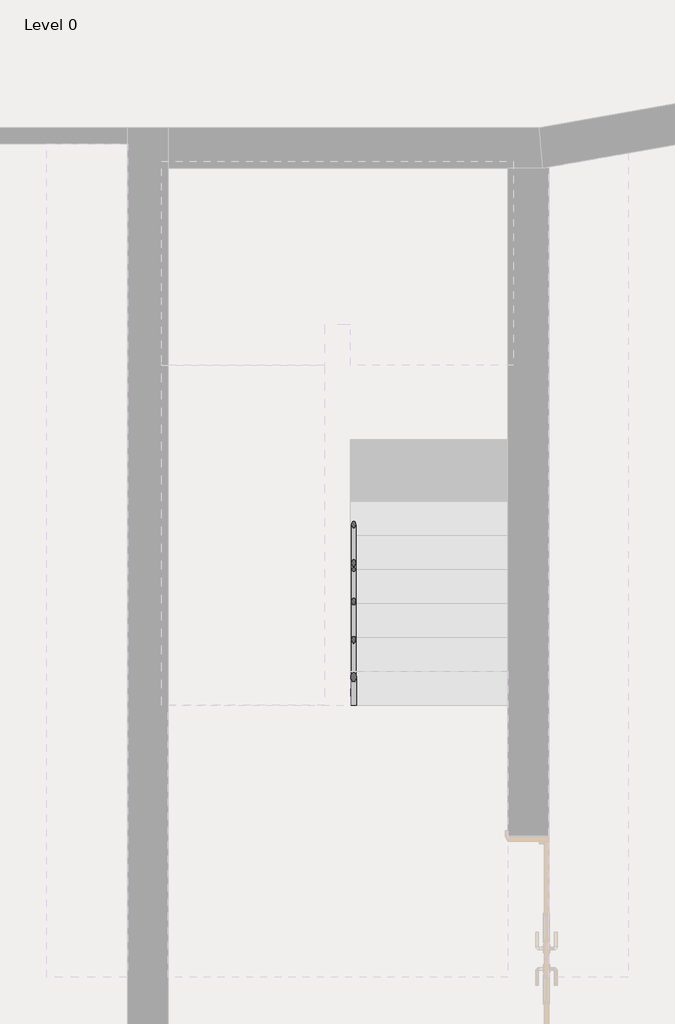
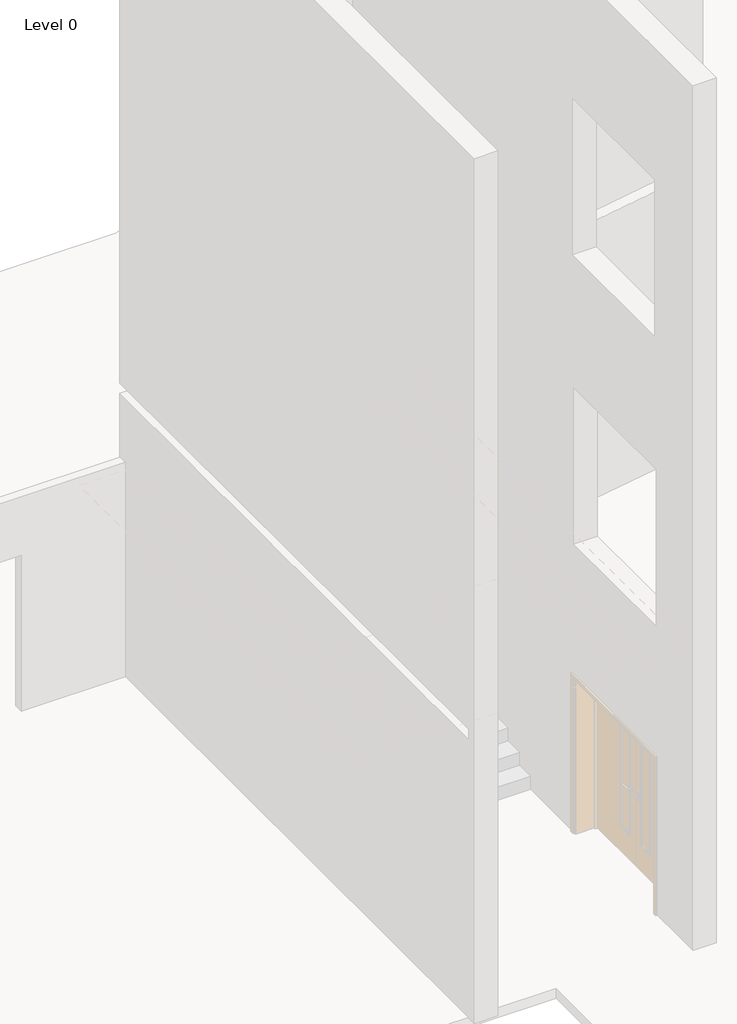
# One storey, part 13 of 14: 1 railing.
"""IFC4 building model written with IfcOpenShell, lengths in millimetres."""

from ifc_helpers import new_model, si_unit, point, frame, frame_2d, origin, place, context, project, spatial, circle_curve, ellipse_curve, trimmed, segment, composite_curve, outline, extrude, element, save
from ifc_brep_helpers import plane_surface, cylinder_surface, advanced_brep

model = new_model("IFC4")

# Units and contexts
model_context = context("Model", 3, world=origin())
ifc_project = project(units=[si_unit("LENGTHUNIT", "METRE", prefix="MILLI")], contexts=[model_context])

# Site, building, storey
site = spatial("IfcSite", under=ifc_project)
building = spatial("IfcBuilding", under=site)
storey = spatial("IfcBuildingStorey", under=building, Name="Level 0", Elevation=0.0)

# Railing
placement = place(None, origin())
element("IfcRailing", 1, ObjectType="900mm_Pipe", at=placement, inside=storey, context=model_context, shape_type="SolidModel", body=[
    advanced_brep(
    [(29097.6000029, 3763.2000006, 1052.7548977), (29057.6000029, 3763.2000006, 1052.7548977), (29097.6000029, 6269.5712987, 2830.0), (29057.6000029, 6269.5712987, 2830.0), (29097.6000029, 6608.6000006, 2830.0), (29057.6000029, 6568.6000006, 2830.0), (28816.8000029, 6608.6000006, 2830.0), (28856.8000029, 6568.6000006, 2830.0), (28816.8000029, 6506.8287024, 2830.0), (28856.8000029, 6506.8287024, 2830.0), (28816.8000029, 6251.631425, 3010.9580695), (28856.8000029, 6251.631425, 3010.9580695), (28816.8000029, 3763.2000006, 4775.4821704), (28856.8000029, 3763.2000006, 4775.4821704)],
    [
        (0, 1, ellipse_curve(frame((29077.6000029, 3763.2000006, 1052.7548977), z_axis=(0.0, -1.0, 0.0), x_axis=(0.0, 0.0, -1.0)), 24.5178296, 20.0)),
        (1, 0, ellipse_curve(frame((29077.6000029, 3763.2000006, 1052.7548977), z_axis=(0.0, -1.0, 0.0), x_axis=(0.0, 0.0, -1.0)), 24.5178296, 20.0)),
        (0, 2),
        (2, 3, ellipse_curve(frame((29077.6000029, 6269.5712987, 2830.0), z_axis=(0.0, -0.9528202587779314, -0.3035350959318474), x_axis=(0.0, 0.30353509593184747, -0.9528202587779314)), 20.9903178, 20.0)),
        (3, 1),
        (3, 2, ellipse_curve(frame((29077.6000029, 6269.5712987, 2830.0), z_axis=(0.0, -0.9528202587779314, -0.3035350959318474), x_axis=(0.0, 0.30353509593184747, -0.9528202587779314)), 20.9903178, 20.0)),
        (2, 4),
        (4, 5, ellipse_curve(frame((29077.6000029, 6588.6000006, 2830.0), z_axis=(0.7071067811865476, -0.7071067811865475, 0.0), x_axis=(-0.7071067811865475, -0.7071067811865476, 0.0)), 28.2842712, 20.0)),
        (5, 3),
        (5, 4, ellipse_curve(frame((29077.6000029, 6588.6000006, 2830.0), z_axis=(0.7071067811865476, -0.7071067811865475, 0.0), x_axis=(-0.7071067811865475, -0.7071067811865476, 0.0)), 28.2842712, 20.0)),
        (4, 6),
        (6, 7, ellipse_curve(frame((28836.8000029, 6588.6000006, 2830.0), z_axis=(0.7071067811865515, 0.7071067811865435, 0.0), x_axis=(0.7071067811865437, -0.7071067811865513, 0.0)), 28.2842712, 20.0)),
        (7, 5),
        (7, 6, ellipse_curve(frame((28836.8000029, 6588.6000006, 2830.0), z_axis=(0.7071067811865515, 0.7071067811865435, 0.0), x_axis=(0.7071067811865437, -0.7071067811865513, 0.0)), 28.2842712, 20.0)),
        (6, 8),
        (8, 9, ellipse_curve(frame((28836.8000029, 6506.8287024, 2830.0), z_axis=(0.0, 0.9528202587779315, -0.3035350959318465), x_axis=(0.0, 0.3035350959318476, 0.9528202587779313)), 20.9903178, 20.0)),
        (9, 7),
        (9, 8, ellipse_curve(frame((28836.8000029, 6506.8287024, 2830.0), z_axis=(0.0, 0.9528202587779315, -0.3035350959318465), x_axis=(0.0, 0.3035350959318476, 0.9528202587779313)), 20.9903178, 20.0)),
        (8, 10),
        (10, 11, circle_curve(frame((28836.8000029, 6251.631425, 3010.9580695), z_axis=(0.0, 0.8157328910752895, -0.5784287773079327), x_axis=(1.0, 0.0, 0.0)), 20.0)),
        (11, 9),
        (11, 10, circle_curve(frame((28836.8000029, 6251.631425, 3010.9580695), z_axis=(0.0, 0.8157328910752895, -0.5784287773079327), x_axis=(1.0, 0.0, 0.0)), 20.0)),
        (12, 13, ellipse_curve(frame((28836.8000029, 3763.2000006, 4775.4821704), z_axis=(0.0, -1.0, 0.0), x_axis=(0.0, 0.0, -1.0)), 24.5178296, 20.0)),
        (13, 12, ellipse_curve(frame((28836.8000029, 3763.2000006, 4775.4821704), z_axis=(0.0, -1.0, 0.0), x_axis=(0.0, 0.0, -1.0)), 24.5178296, 20.0)),
        (10, 12),
        (13, 11),
    ],
    [
        plane_surface(frame((29077.6000029, 3763.2000006, 1077.2727273), z_axis=(0.0, -1.0, 0.0), x_axis=(0.0, 0.0, 1.0))),
        cylinder_surface(frame((29077.6000029, 3774.7685761, 1060.9580695), z_axis=(0.0, -0.8157328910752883, -0.5784287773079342), x_axis=(-1.0, 0.0, 0.0)), 20.0),
        cylinder_surface(frame((29077.6000029, 6263.2000006, 2830.0), z_axis=(0.0, -1.0, 0.0), x_axis=(-1.0, 0.0, 0.0)), 20.0),
        cylinder_surface(frame((29077.6000029, 6588.6000006, 2830.0), z_axis=(1.0, 0.0, 0.0), x_axis=(0.0, -1.0, 0.0)), 20.0),
        cylinder_surface(frame((28836.8000029, 6588.6000006, 2830.0), z_axis=(0.0, 1.0, 0.0), x_axis=(1.0, 0.0, 0.0)), 20.0),
        cylinder_surface(frame((28836.8000029, 6501.631425, 2833.6853422), z_axis=(0.0, 0.8157328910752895, -0.5784287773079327), x_axis=(1.0, 0.0, 0.0)), 20.0),
        plane_surface(frame((28836.8000029, 3763.2000006, 4800.0), z_axis=(0.0, -1.0, 0.0), x_axis=(0.0, 0.0, -1.0))),
        cylinder_surface(frame((28836.8000029, 6251.631425, 3010.9580695), z_axis=(0.0, 0.8157328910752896, -0.5784287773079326), x_axis=(1.0, 0.0, 0.0)), 20.0),
    ],
    [
        (0, [[1, 2]]),
        (1, [[-1, 3, 4, 5]]),
        (1, [[-2, -5, 6, -3]]),
        (2, [[-4, 7, 8, 9]]),
        (2, [[-6, -9, 10, -7]]),
        (3, [[-8, 11, 12, 13]]),
        (3, [[-10, -13, 14, -11]]),
        (4, [[-12, 15, 16, 17]]),
        (4, [[-14, -17, 18, -15]]),
        (5, [[-16, 19, 20, 21]]),
        (5, [[-18, -21, 22, -19]]),
        (6, [[23, 24]]),
        (7, [[-20, 25, -24, 26]]),
        (7, [[-22, -26, -23, -25]]),
    ],
),
    advanced_brep(
    [(29092.6000029, 3763.2000006, 858.8843551), (29062.6000029, 3763.2000006, 858.8843551), (29092.6000029, 6263.2000006, 2631.6116278), (29062.6000029, 6263.2000006, 2631.6116278)],
    [
        (0, 1, ellipse_curve(frame((29077.6000029, 3763.2000006, 858.8843551), z_axis=(0.0, -1.0, 0.0), x_axis=(0.0, 0.0, -1.0)), 18.3883722, 15.0)),
        (1, 0, ellipse_curve(frame((29077.6000029, 3763.2000006, 858.8843551), z_axis=(0.0, -1.0, 0.0), x_axis=(0.0, 0.0, -1.0)), 18.3883722, 15.0)),
        (2, 3, ellipse_curve(frame((29077.6000029, 6263.2000006, 2631.6116278), z_axis=(0.0, 1.0, 0.0), x_axis=(0.0, 0.0, -1.0)), 18.3883722, 15.0)),
        (3, 2, ellipse_curve(frame((29077.6000029, 6263.2000006, 2631.6116278), z_axis=(0.0, 1.0, 0.0), x_axis=(0.0, 0.0, -1.0)), 18.3883722, 15.0)),
        (0, 2),
        (3, 1),
    ],
    [
        plane_surface(frame((29077.6000029, 3763.2000006, 877.2727273), z_axis=(0.0, -1.0, 0.0), x_axis=(0.0, 0.0, 1.0))),
        plane_surface(frame((29077.6000029, 6263.2000006, 2650.0), z_axis=(0.0, 1.0, 0.0), x_axis=(0.0, 0.0, 1.0))),
        cylinder_surface(frame((29077.6000029, 3771.8764322, 865.0367339), z_axis=(0.0, -0.8157328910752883, -0.5784287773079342), x_axis=(-1.0, 0.0, 0.0)), 15.0),
    ],
    [
        (0, [[1, 2]]),
        (1, [[3, 4]]),
        (2, [[-1, 5, -4, 6]]),
        (2, [[-2, -6, -3, -5]]),
    ],
),
    advanced_brep(
    [(29092.6000029, 6263.2000006, 2635.0), (29062.6000029, 6263.2000006, 2635.0), (29092.6000029, 6573.6000006, 2635.0), (29062.6000029, 6573.6000006, 2635.0)],
    [
        (0, 1, circle_curve(frame((29077.6000029, 6263.2000006, 2635.0), z_axis=(0.0, -1.0, 0.0), x_axis=(-1.0, 0.0, 0.0)), 15.0)),
        (1, 0, circle_curve(frame((29077.6000029, 6263.2000006, 2635.0), z_axis=(0.0, -1.0, 0.0), x_axis=(-1.0, 0.0, 0.0)), 15.0)),
        (2, 3, circle_curve(frame((29077.6000029, 6573.6000006, 2635.0), z_axis=(0.0, 1.0, 0.0), x_axis=(-1.0, 0.0, 0.0)), 15.0)),
        (3, 2, circle_curve(frame((29077.6000029, 6573.6000006, 2635.0), z_axis=(0.0, 1.0, 0.0), x_axis=(-1.0, 0.0, 0.0)), 15.0)),
        (0, 2),
        (3, 1),
    ],
    [
        plane_surface(frame((29077.6000029, 6263.2000006, 2650.0), z_axis=(0.0, -1.0, 0.0), x_axis=(0.0, 0.0, 1.0))),
        plane_surface(frame((29077.6000029, 6573.6000006, 2650.0), z_axis=(0.0, 1.0, 0.0), x_axis=(0.0, 0.0, 1.0))),
        cylinder_surface(frame((29077.6000029, 6263.2000006, 2635.0), z_axis=(0.0, -1.0, 0.0), x_axis=(-1.0, 0.0, 0.0)), 15.0),
    ],
    [
        (0, [[1, 2]]),
        (1, [[3, 4]]),
        (2, [[-1, 5, -4, 6]]),
        (2, [[-2, -6, -3, -5]]),
    ],
),
    advanced_brep(
    [(29092.6000029, 6603.6000006, 2635.0), (29092.6000029, 6573.6000006, 2635.0), (28851.8000029, 6603.6000006, 2635.0), (28851.8000029, 6573.6000006, 2635.0)],
    [
        (0, 1, circle_curve(frame((29092.6000029, 6588.6000006, 2635.0), z_axis=(1.0, 0.0, 0.0), x_axis=(0.0, -1.0, 0.0)), 15.0)),
        (1, 0, circle_curve(frame((29092.6000029, 6588.6000006, 2635.0), z_axis=(1.0, 0.0, 0.0), x_axis=(0.0, -1.0, 0.0)), 15.0)),
        (2, 3, circle_curve(frame((28851.8000029, 6588.6000006, 2635.0), z_axis=(-1.0, 0.0, 0.0), x_axis=(0.0, -1.0, 0.0)), 15.0)),
        (3, 2, circle_curve(frame((28851.8000029, 6588.6000006, 2635.0), z_axis=(-1.0, 0.0, 0.0), x_axis=(0.0, -1.0, 0.0)), 15.0)),
        (0, 2),
        (3, 1),
    ],
    [
        plane_surface(frame((29092.6000029, 6588.6000006, 2650.0), z_axis=(1.0, 0.0, 0.0), x_axis=(0.0, -1.0, 0.0))),
        plane_surface(frame((28851.8000029, 6588.6000006, 2650.0), z_axis=(-1.0, 0.0, 0.0), x_axis=(0.0, -1.0, 0.0))),
        cylinder_surface(frame((29092.6000029, 6588.6000006, 2635.0), z_axis=(1.0, 0.0, 0.0), x_axis=(0.0, -1.0, 0.0)), 15.0),
    ],
    [
        (0, [[1, 2]]),
        (1, [[3, 4]]),
        (2, [[-1, 5, -4, 6]]),
        (2, [[-2, -6, -3, -5]]),
    ],
),
    advanced_brep(
    [(28821.8000029, 6603.6000006, 2635.0), (28851.8000029, 6603.6000006, 2635.0), (28821.8000029, 6508.421527, 2635.0), (28851.8000029, 6508.421527, 2635.0), (28821.8000029, 6263.2000006, 2808.8843551), (28851.8000029, 6263.2000006, 2808.8843551)],
    [
        (0, 1, circle_curve(frame((28836.8000029, 6603.6000006, 2635.0), z_axis=(0.0, 1.0, 0.0), x_axis=(1.0, 0.0, 0.0)), 15.0)),
        (1, 0, circle_curve(frame((28836.8000029, 6603.6000006, 2635.0), z_axis=(0.0, 1.0, 0.0), x_axis=(1.0, 0.0, 0.0)), 15.0)),
        (0, 2),
        (2, 3, ellipse_curve(frame((28836.8000029, 6508.421527, 2635.0), z_axis=(0.0, 0.9528202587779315, -0.3035350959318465), x_axis=(0.0, 0.3035350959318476, 0.9528202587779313)), 15.7427383, 15.0)),
        (3, 1),
        (3, 2, ellipse_curve(frame((28836.8000029, 6508.421527, 2635.0), z_axis=(0.0, 0.9528202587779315, -0.3035350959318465), x_axis=(0.0, 0.3035350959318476, 0.9528202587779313)), 15.7427383, 15.0)),
        (4, 5, ellipse_curve(frame((28836.8000029, 6263.2000006, 2808.8843551), z_axis=(0.0, -1.0, 0.0), x_axis=(0.0, 0.0, -1.0)), 18.3883722, 15.0)),
        (5, 4, ellipse_curve(frame((28836.8000029, 6263.2000006, 2808.8843551), z_axis=(0.0, -1.0, 0.0), x_axis=(0.0, 0.0, -1.0)), 18.3883722, 15.0)),
        (2, 4),
        (5, 3),
    ],
    [
        plane_surface(frame((28836.8000029, 6603.6000006, 2650.0), z_axis=(0.0, 1.0, 0.0), x_axis=(0.0, 0.0, -1.0))),
        cylinder_surface(frame((28836.8000029, 6603.6000006, 2635.0), z_axis=(0.0, 1.0, 0.0), x_axis=(1.0, 0.0, 0.0)), 15.0),
        plane_surface(frame((28836.8000029, 6263.2000006, 2827.2727273), z_axis=(0.0, -1.0, 0.0), x_axis=(0.0, 0.0, -1.0))),
        cylinder_surface(frame((28836.8000029, 6504.5235689, 2637.7640066), z_axis=(0.0, 0.8157328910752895, -0.5784287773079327), x_axis=(1.0, 0.0, 0.0)), 15.0),
    ],
    [
        (0, [[1, 2]]),
        (1, [[-1, 3, 4, 5]]),
        (1, [[-2, -5, 6, -3]]),
        (2, [[7, 8]]),
        (3, [[-4, 9, -8, 10]]),
        (3, [[-6, -10, -7, -9]]),
    ],
),
    advanced_brep(
    [(28821.8000029, 6263.2000006, 2808.8843551), (28851.8000029, 6263.2000006, 2808.8843551), (28821.8000029, 3763.2000006, 4581.6116278), (28851.8000029, 3763.2000006, 4581.6116278)],
    [
        (0, 1, ellipse_curve(frame((28836.8000029, 6263.2000006, 2808.8843551), z_axis=(0.0, 1.0, 0.0), x_axis=(0.0, 0.0, -1.0)), 18.3883722, 15.0)),
        (1, 0, ellipse_curve(frame((28836.8000029, 6263.2000006, 2808.8843551), z_axis=(0.0, 1.0, 0.0), x_axis=(0.0, 0.0, -1.0)), 18.3883722, 15.0)),
        (2, 3, ellipse_curve(frame((28836.8000029, 3763.2000006, 4581.6116278), z_axis=(0.0, -1.0, 0.0), x_axis=(0.0, 0.0, -1.0)), 18.3883722, 15.0)),
        (3, 2, ellipse_curve(frame((28836.8000029, 3763.2000006, 4581.6116278), z_axis=(0.0, -1.0, 0.0), x_axis=(0.0, 0.0, -1.0)), 18.3883722, 15.0)),
        (0, 2),
        (3, 1),
    ],
    [
        plane_surface(frame((28836.8000029, 6263.2000006, 2827.2727273), z_axis=(0.0, 1.0, 0.0), x_axis=(0.0, 0.0, -1.0))),
        plane_surface(frame((28836.8000029, 3763.2000006, 4600.0), z_axis=(0.0, -1.0, 0.0), x_axis=(0.0, 0.0, -1.0))),
        cylinder_surface(frame((28836.8000029, 6254.5235689, 2815.0367339), z_axis=(0.0, 0.8157328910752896, -0.5784287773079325), x_axis=(1.0, 0.0, 0.0)), 15.0),
    ],
    [
        (0, [[1, 2]]),
        (1, [[3, 4]]),
        (2, [[-1, 5, -4, 6]]),
        (2, [[-2, -6, -3, -5]]),
    ],
),
    advanced_brep(
    [(29092.6000029, 3763.2000006, 658.8843551), (29062.6000029, 3763.2000006, 658.8843551), (29092.6000029, 6263.2000006, 2431.6116278), (29062.6000029, 6263.2000006, 2431.6116278)],
    [
        (0, 1, ellipse_curve(frame((29077.6000029, 3763.2000006, 658.8843551), z_axis=(0.0, -1.0, 0.0), x_axis=(0.0, 0.0, -1.0)), 18.3883722, 15.0)),
        (1, 0, ellipse_curve(frame((29077.6000029, 3763.2000006, 658.8843551), z_axis=(0.0, -1.0, 0.0), x_axis=(0.0, 0.0, -1.0)), 18.3883722, 15.0)),
        (2, 3, ellipse_curve(frame((29077.6000029, 6263.2000006, 2431.6116278), z_axis=(0.0, 1.0, 0.0), x_axis=(0.0, 0.0, -1.0)), 18.3883722, 15.0)),
        (3, 2, ellipse_curve(frame((29077.6000029, 6263.2000006, 2431.6116278), z_axis=(0.0, 1.0, 0.0), x_axis=(0.0, 0.0, -1.0)), 18.3883722, 15.0)),
        (0, 2),
        (3, 1),
    ],
    [
        plane_surface(frame((29077.6000029, 3763.2000006, 677.2727273), z_axis=(0.0, -1.0, 0.0), x_axis=(0.0, 0.0, 1.0))),
        plane_surface(frame((29077.6000029, 6263.2000006, 2450.0), z_axis=(0.0, 1.0, 0.0), x_axis=(0.0, 0.0, 1.0))),
        cylinder_surface(frame((29077.6000029, 3771.8764322, 665.0367339), z_axis=(0.0, -0.8157328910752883, -0.5784287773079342), x_axis=(-1.0, 0.0, 0.0)), 15.0),
    ],
    [
        (0, [[1, 2]]),
        (1, [[3, 4]]),
        (2, [[-1, 5, -4, 6]]),
        (2, [[-2, -6, -3, -5]]),
    ],
),
    advanced_brep(
    [(29092.6000029, 6263.2000006, 2435.0), (29062.6000029, 6263.2000006, 2435.0), (29092.6000029, 6573.6000006, 2435.0), (29062.6000029, 6573.6000006, 2435.0)],
    [
        (0, 1, circle_curve(frame((29077.6000029, 6263.2000006, 2435.0), z_axis=(0.0, -1.0, 0.0), x_axis=(-1.0, 0.0, 0.0)), 15.0)),
        (1, 0, circle_curve(frame((29077.6000029, 6263.2000006, 2435.0), z_axis=(0.0, -1.0, 0.0), x_axis=(-1.0, 0.0, 0.0)), 15.0)),
        (2, 3, circle_curve(frame((29077.6000029, 6573.6000006, 2435.0), z_axis=(0.0, 1.0, 0.0), x_axis=(-1.0, 0.0, 0.0)), 15.0)),
        (3, 2, circle_curve(frame((29077.6000029, 6573.6000006, 2435.0), z_axis=(0.0, 1.0, 0.0), x_axis=(-1.0, 0.0, 0.0)), 15.0)),
        (0, 2),
        (3, 1),
    ],
    [
        plane_surface(frame((29077.6000029, 6263.2000006, 2450.0), z_axis=(0.0, -1.0, 0.0), x_axis=(0.0, 0.0, 1.0))),
        plane_surface(frame((29077.6000029, 6573.6000006, 2450.0), z_axis=(0.0, 1.0, 0.0), x_axis=(0.0, 0.0, 1.0))),
        cylinder_surface(frame((29077.6000029, 6263.2000006, 2435.0), z_axis=(0.0, -1.0, 0.0), x_axis=(-1.0, 0.0, 0.0)), 15.0),
    ],
    [
        (0, [[1, 2]]),
        (1, [[3, 4]]),
        (2, [[-1, 5, -4, 6]]),
        (2, [[-2, -6, -3, -5]]),
    ],
),
    advanced_brep(
    [(29092.6000029, 6603.6000006, 2435.0), (29092.6000029, 6573.6000006, 2435.0), (28851.8000029, 6603.6000006, 2435.0), (28851.8000029, 6573.6000006, 2435.0)],
    [
        (0, 1, circle_curve(frame((29092.6000029, 6588.6000006, 2435.0), z_axis=(1.0, 0.0, 0.0), x_axis=(0.0, -1.0, 0.0)), 15.0)),
        (1, 0, circle_curve(frame((29092.6000029, 6588.6000006, 2435.0), z_axis=(1.0, 0.0, 0.0), x_axis=(0.0, -1.0, 0.0)), 15.0)),
        (2, 3, circle_curve(frame((28851.8000029, 6588.6000006, 2435.0), z_axis=(-1.0, 0.0, 0.0), x_axis=(0.0, -1.0, 0.0)), 15.0)),
        (3, 2, circle_curve(frame((28851.8000029, 6588.6000006, 2435.0), z_axis=(-1.0, 0.0, 0.0), x_axis=(0.0, -1.0, 0.0)), 15.0)),
        (0, 2),
        (3, 1),
    ],
    [
        plane_surface(frame((29092.6000029, 6588.6000006, 2450.0), z_axis=(1.0, 0.0, 0.0), x_axis=(0.0, -1.0, 0.0))),
        plane_surface(frame((28851.8000029, 6588.6000006, 2450.0), z_axis=(-1.0, 0.0, 0.0), x_axis=(0.0, -1.0, 0.0))),
        cylinder_surface(frame((29092.6000029, 6588.6000006, 2435.0), z_axis=(1.0, 0.0, 0.0), x_axis=(0.0, -1.0, 0.0)), 15.0),
    ],
    [
        (0, [[1, 2]]),
        (1, [[3, 4]]),
        (2, [[-1, 5, -4, 6]]),
        (2, [[-2, -6, -3, -5]]),
    ],
),
    advanced_brep(
    [(28821.8000029, 6603.6000006, 2435.0), (28851.8000029, 6603.6000006, 2435.0), (28821.8000029, 6508.421527, 2435.0), (28851.8000029, 6508.421527, 2435.0), (28821.8000029, 6263.2000006, 2608.8843551), (28851.8000029, 6263.2000006, 2608.8843551)],
    [
        (0, 1, circle_curve(frame((28836.8000029, 6603.6000006, 2435.0), z_axis=(0.0, 1.0, 0.0), x_axis=(1.0, 0.0, 0.0)), 15.0)),
        (1, 0, circle_curve(frame((28836.8000029, 6603.6000006, 2435.0), z_axis=(0.0, 1.0, 0.0), x_axis=(1.0, 0.0, 0.0)), 15.0)),
        (0, 2),
        (2, 3, ellipse_curve(frame((28836.8000029, 6508.421527, 2435.0), z_axis=(0.0, 0.9528202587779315, -0.3035350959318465), x_axis=(0.0, 0.3035350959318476, 0.9528202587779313)), 15.7427383, 15.0)),
        (3, 1),
        (3, 2, ellipse_curve(frame((28836.8000029, 6508.421527, 2435.0), z_axis=(0.0, 0.9528202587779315, -0.3035350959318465), x_axis=(0.0, 0.3035350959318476, 0.9528202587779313)), 15.7427383, 15.0)),
        (4, 5, ellipse_curve(frame((28836.8000029, 6263.2000006, 2608.8843551), z_axis=(0.0, -1.0, 0.0), x_axis=(0.0, 0.0, -1.0)), 18.3883722, 15.0)),
        (5, 4, ellipse_curve(frame((28836.8000029, 6263.2000006, 2608.8843551), z_axis=(0.0, -1.0, 0.0), x_axis=(0.0, 0.0, -1.0)), 18.3883722, 15.0)),
        (2, 4),
        (5, 3),
    ],
    [
        plane_surface(frame((28836.8000029, 6603.6000006, 2450.0), z_axis=(0.0, 1.0, 0.0), x_axis=(0.0, 0.0, -1.0))),
        cylinder_surface(frame((28836.8000029, 6603.6000006, 2435.0), z_axis=(0.0, 1.0, 0.0), x_axis=(1.0, 0.0, 0.0)), 15.0),
        plane_surface(frame((28836.8000029, 6263.2000006, 2627.2727273), z_axis=(0.0, -1.0, 0.0), x_axis=(0.0, 0.0, -1.0))),
        cylinder_surface(frame((28836.8000029, 6504.5235689, 2437.7640066), z_axis=(0.0, 0.8157328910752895, -0.5784287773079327), x_axis=(1.0, 0.0, 0.0)), 15.0),
    ],
    [
        (0, [[1, 2]]),
        (1, [[-1, 3, 4, 5]]),
        (1, [[-2, -5, 6, -3]]),
        (2, [[7, 8]]),
        (3, [[-4, 9, -8, 10]]),
        (3, [[-6, -10, -7, -9]]),
    ],
),
    advanced_brep(
    [(28821.8000029, 6263.2000006, 2608.8843551), (28851.8000029, 6263.2000006, 2608.8843551), (28821.8000029, 3763.2000006, 4381.6116278), (28851.8000029, 3763.2000006, 4381.6116278)],
    [
        (0, 1, ellipse_curve(frame((28836.8000029, 6263.2000006, 2608.8843551), z_axis=(0.0, 1.0, 0.0), x_axis=(0.0, 0.0, -1.0)), 18.3883722, 15.0)),
        (1, 0, ellipse_curve(frame((28836.8000029, 6263.2000006, 2608.8843551), z_axis=(0.0, 1.0, 0.0), x_axis=(0.0, 0.0, -1.0)), 18.3883722, 15.0)),
        (2, 3, ellipse_curve(frame((28836.8000029, 3763.2000006, 4381.6116278), z_axis=(0.0, -1.0, 0.0), x_axis=(0.0, 0.0, -1.0)), 18.3883722, 15.0)),
        (3, 2, ellipse_curve(frame((28836.8000029, 3763.2000006, 4381.6116278), z_axis=(0.0, -1.0, 0.0), x_axis=(0.0, 0.0, -1.0)), 18.3883722, 15.0)),
        (0, 2),
        (3, 1),
    ],
    [
        plane_surface(frame((28836.8000029, 6263.2000006, 2627.2727273), z_axis=(0.0, 1.0, 0.0), x_axis=(0.0, 0.0, -1.0))),
        plane_surface(frame((28836.8000029, 3763.2000006, 4400.0), z_axis=(0.0, -1.0, 0.0), x_axis=(0.0, 0.0, -1.0))),
        cylinder_surface(frame((28836.8000029, 6254.5235689, 2615.0367339), z_axis=(0.0, 0.8157328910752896, -0.5784287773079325), x_axis=(1.0, 0.0, 0.0)), 15.0),
    ],
    [
        (0, [[1, 2]]),
        (1, [[3, 4]]),
        (2, [[-1, 5, -4, 6]]),
        (2, [[-2, -6, -3, -5]]),
    ],
),
    advanced_brep(
    [(29092.6000029, 3763.2000006, 458.8843551), (29062.6000029, 3763.2000006, 458.8843551), (29092.6000029, 6263.2000006, 2231.6116278), (29062.6000029, 6263.2000006, 2231.6116278)],
    [
        (0, 1, ellipse_curve(frame((29077.6000029, 3763.2000006, 458.8843551), z_axis=(0.0, -1.0, 0.0), x_axis=(0.0, 0.0, -1.0)), 18.3883722, 15.0)),
        (1, 0, ellipse_curve(frame((29077.6000029, 3763.2000006, 458.8843551), z_axis=(0.0, -1.0, 0.0), x_axis=(0.0, 0.0, -1.0)), 18.3883722, 15.0)),
        (2, 3, ellipse_curve(frame((29077.6000029, 6263.2000006, 2231.6116278), z_axis=(0.0, 1.0, 0.0), x_axis=(0.0, 0.0, -1.0)), 18.3883722, 15.0)),
        (3, 2, ellipse_curve(frame((29077.6000029, 6263.2000006, 2231.6116278), z_axis=(0.0, 1.0, 0.0), x_axis=(0.0, 0.0, -1.0)), 18.3883722, 15.0)),
        (0, 2),
        (3, 1),
    ],
    [
        plane_surface(frame((29077.6000029, 3763.2000006, 477.2727273), z_axis=(0.0, -1.0, 0.0), x_axis=(0.0, 0.0, 1.0))),
        plane_surface(frame((29077.6000029, 6263.2000006, 2250.0), z_axis=(0.0, 1.0, 0.0), x_axis=(0.0, 0.0, 1.0))),
        cylinder_surface(frame((29077.6000029, 3771.8764322, 465.0367339), z_axis=(0.0, -0.8157328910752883, -0.5784287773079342), x_axis=(-1.0, 0.0, 0.0)), 15.0),
    ],
    [
        (0, [[1, 2]]),
        (1, [[3, 4]]),
        (2, [[-1, 5, -4, 6]]),
        (2, [[-2, -6, -3, -5]]),
    ],
),
    advanced_brep(
    [(29092.6000029, 6263.2000006, 2235.0), (29062.6000029, 6263.2000006, 2235.0), (29092.6000029, 6573.6000006, 2235.0), (29062.6000029, 6573.6000006, 2235.0)],
    [
        (0, 1, circle_curve(frame((29077.6000029, 6263.2000006, 2235.0), z_axis=(0.0, -1.0, 0.0), x_axis=(-1.0, 0.0, 0.0)), 15.0)),
        (1, 0, circle_curve(frame((29077.6000029, 6263.2000006, 2235.0), z_axis=(0.0, -1.0, 0.0), x_axis=(-1.0, 0.0, 0.0)), 15.0)),
        (2, 3, circle_curve(frame((29077.6000029, 6573.6000006, 2235.0), z_axis=(0.0, 1.0, 0.0), x_axis=(-1.0, 0.0, 0.0)), 15.0)),
        (3, 2, circle_curve(frame((29077.6000029, 6573.6000006, 2235.0), z_axis=(0.0, 1.0, 0.0), x_axis=(-1.0, 0.0, 0.0)), 15.0)),
        (0, 2),
        (3, 1),
    ],
    [
        plane_surface(frame((29077.6000029, 6263.2000006, 2250.0), z_axis=(0.0, -1.0, 0.0), x_axis=(0.0, 0.0, 1.0))),
        plane_surface(frame((29077.6000029, 6573.6000006, 2250.0), z_axis=(0.0, 1.0, 0.0), x_axis=(0.0, 0.0, 1.0))),
        cylinder_surface(frame((29077.6000029, 6263.2000006, 2235.0), z_axis=(0.0, -1.0, 0.0), x_axis=(-1.0, 0.0, 0.0)), 15.0),
    ],
    [
        (0, [[1, 2]]),
        (1, [[3, 4]]),
        (2, [[-1, 5, -4, 6]]),
        (2, [[-2, -6, -3, -5]]),
    ],
),
    advanced_brep(
    [(29092.6000029, 6603.6000006, 2235.0), (29092.6000029, 6573.6000006, 2235.0), (28851.8000029, 6603.6000006, 2235.0), (28851.8000029, 6573.6000006, 2235.0)],
    [
        (0, 1, circle_curve(frame((29092.6000029, 6588.6000006, 2235.0), z_axis=(1.0, 0.0, 0.0), x_axis=(0.0, -1.0, 0.0)), 15.0)),
        (1, 0, circle_curve(frame((29092.6000029, 6588.6000006, 2235.0), z_axis=(1.0, 0.0, 0.0), x_axis=(0.0, -1.0, 0.0)), 15.0)),
        (2, 3, circle_curve(frame((28851.8000029, 6588.6000006, 2235.0), z_axis=(-1.0, 0.0, 0.0), x_axis=(0.0, -1.0, 0.0)), 15.0)),
        (3, 2, circle_curve(frame((28851.8000029, 6588.6000006, 2235.0), z_axis=(-1.0, 0.0, 0.0), x_axis=(0.0, -1.0, 0.0)), 15.0)),
        (0, 2),
        (3, 1),
    ],
    [
        plane_surface(frame((29092.6000029, 6588.6000006, 2250.0), z_axis=(1.0, 0.0, 0.0), x_axis=(0.0, -1.0, 0.0))),
        plane_surface(frame((28851.8000029, 6588.6000006, 2250.0), z_axis=(-1.0, 0.0, 0.0), x_axis=(0.0, -1.0, 0.0))),
        cylinder_surface(frame((29092.6000029, 6588.6000006, 2235.0), z_axis=(1.0, 0.0, 0.0), x_axis=(0.0, -1.0, 0.0)), 15.0),
    ],
    [
        (0, [[1, 2]]),
        (1, [[3, 4]]),
        (2, [[-1, 5, -4, 6]]),
        (2, [[-2, -6, -3, -5]]),
    ],
),
    advanced_brep(
    [(28821.8000029, 6603.6000006, 2235.0), (28851.8000029, 6603.6000006, 2235.0), (28821.8000029, 6508.421527, 2235.0), (28851.8000029, 6508.421527, 2235.0), (28821.8000029, 6263.2000006, 2408.8843551), (28851.8000029, 6263.2000006, 2408.8843551)],
    [
        (0, 1, circle_curve(frame((28836.8000029, 6603.6000006, 2235.0), z_axis=(0.0, 1.0, 0.0), x_axis=(1.0, 0.0, 0.0)), 15.0)),
        (1, 0, circle_curve(frame((28836.8000029, 6603.6000006, 2235.0), z_axis=(0.0, 1.0, 0.0), x_axis=(1.0, 0.0, 0.0)), 15.0)),
        (0, 2),
        (2, 3, ellipse_curve(frame((28836.8000029, 6508.421527, 2235.0), z_axis=(0.0, 0.9528202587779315, -0.3035350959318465), x_axis=(0.0, 0.3035350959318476, 0.9528202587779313)), 15.7427383, 15.0)),
        (3, 1),
        (3, 2, ellipse_curve(frame((28836.8000029, 6508.421527, 2235.0), z_axis=(0.0, 0.9528202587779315, -0.3035350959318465), x_axis=(0.0, 0.3035350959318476, 0.9528202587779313)), 15.7427383, 15.0)),
        (4, 5, ellipse_curve(frame((28836.8000029, 6263.2000006, 2408.8843551), z_axis=(0.0, -1.0, 0.0), x_axis=(0.0, 0.0, -1.0)), 18.3883722, 15.0)),
        (5, 4, ellipse_curve(frame((28836.8000029, 6263.2000006, 2408.8843551), z_axis=(0.0, -1.0, 0.0), x_axis=(0.0, 0.0, -1.0)), 18.3883722, 15.0)),
        (2, 4),
        (5, 3),
    ],
    [
        plane_surface(frame((28836.8000029, 6603.6000006, 2250.0), z_axis=(0.0, 1.0, 0.0), x_axis=(0.0, 0.0, -1.0))),
        cylinder_surface(frame((28836.8000029, 6603.6000006, 2235.0), z_axis=(0.0, 1.0, 0.0), x_axis=(1.0, 0.0, 0.0)), 15.0),
        plane_surface(frame((28836.8000029, 6263.2000006, 2427.2727273), z_axis=(0.0, -1.0, 0.0), x_axis=(0.0, 0.0, -1.0))),
        cylinder_surface(frame((28836.8000029, 6504.5235689, 2237.7640066), z_axis=(0.0, 0.8157328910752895, -0.5784287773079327), x_axis=(1.0, 0.0, 0.0)), 15.0),
    ],
    [
        (0, [[1, 2]]),
        (1, [[-1, 3, 4, 5]]),
        (1, [[-2, -5, 6, -3]]),
        (2, [[7, 8]]),
        (3, [[-4, 9, -8, 10]]),
        (3, [[-6, -10, -7, -9]]),
    ],
),
    advanced_brep(
    [(28821.8000029, 6263.2000006, 2408.8843551), (28851.8000029, 6263.2000006, 2408.8843551), (28821.8000029, 3763.2000006, 4181.6116278), (28851.8000029, 3763.2000006, 4181.6116278)],
    [
        (0, 1, ellipse_curve(frame((28836.8000029, 6263.2000006, 2408.8843551), z_axis=(0.0, 1.0, 0.0), x_axis=(0.0, 0.0, -1.0)), 18.3883722, 15.0)),
        (1, 0, ellipse_curve(frame((28836.8000029, 6263.2000006, 2408.8843551), z_axis=(0.0, 1.0, 0.0), x_axis=(0.0, 0.0, -1.0)), 18.3883722, 15.0)),
        (2, 3, ellipse_curve(frame((28836.8000029, 3763.2000006, 4181.6116278), z_axis=(0.0, -1.0, 0.0), x_axis=(0.0, 0.0, -1.0)), 18.3883722, 15.0)),
        (3, 2, ellipse_curve(frame((28836.8000029, 3763.2000006, 4181.6116278), z_axis=(0.0, -1.0, 0.0), x_axis=(0.0, 0.0, -1.0)), 18.3883722, 15.0)),
        (0, 2),
        (3, 1),
    ],
    [
        plane_surface(frame((28836.8000029, 6263.2000006, 2427.2727273), z_axis=(0.0, 1.0, 0.0), x_axis=(0.0, 0.0, -1.0))),
        plane_surface(frame((28836.8000029, 3763.2000006, 4200.0), z_axis=(0.0, -1.0, 0.0), x_axis=(0.0, 0.0, -1.0))),
        cylinder_surface(frame((28836.8000029, 6254.5235689, 2415.0367339), z_axis=(0.0, 0.8157328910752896, -0.5784287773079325), x_axis=(1.0, 0.0, 0.0)), 15.0),
    ],
    [
        (0, [[1, 2]]),
        (1, [[3, 4]]),
        (2, [[-1, 5, -4, 6]]),
        (2, [[-2, -6, -3, -5]]),
    ],
),
    advanced_brep(
    [(29092.6000029, 3763.2000006, 258.8843551), (29062.6000029, 3763.2000006, 258.8843551), (29092.6000029, 6263.2000006, 2031.6116278), (29062.6000029, 6263.2000006, 2031.6116278)],
    [
        (0, 1, ellipse_curve(frame((29077.6000029, 3763.2000006, 258.8843551), z_axis=(0.0, -1.0, 0.0), x_axis=(0.0, 0.0, -1.0)), 18.3883722, 15.0)),
        (1, 0, ellipse_curve(frame((29077.6000029, 3763.2000006, 258.8843551), z_axis=(0.0, -1.0, 0.0), x_axis=(0.0, 0.0, -1.0)), 18.3883722, 15.0)),
        (2, 3, ellipse_curve(frame((29077.6000029, 6263.2000006, 2031.6116278), z_axis=(0.0, 1.0, 0.0), x_axis=(0.0, 0.0, -1.0)), 18.3883722, 15.0)),
        (3, 2, ellipse_curve(frame((29077.6000029, 6263.2000006, 2031.6116278), z_axis=(0.0, 1.0, 0.0), x_axis=(0.0, 0.0, -1.0)), 18.3883722, 15.0)),
        (0, 2),
        (3, 1),
    ],
    [
        plane_surface(frame((29077.6000029, 3763.2000006, 277.2727273), z_axis=(0.0, -1.0, 0.0), x_axis=(0.0, 0.0, 1.0))),
        plane_surface(frame((29077.6000029, 6263.2000006, 2050.0), z_axis=(0.0, 1.0, 0.0), x_axis=(0.0, 0.0, 1.0))),
        cylinder_surface(frame((29077.6000029, 3771.8764322, 265.0367339), z_axis=(0.0, -0.8157328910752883, -0.5784287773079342), x_axis=(-1.0, 0.0, 0.0)), 15.0),
    ],
    [
        (0, [[1, 2]]),
        (1, [[3, 4]]),
        (2, [[-1, 5, -4, 6]]),
        (2, [[-2, -6, -3, -5]]),
    ],
),
    advanced_brep(
    [(29092.6000029, 6263.2000006, 2035.0), (29062.6000029, 6263.2000006, 2035.0), (29092.6000029, 6573.6000006, 2035.0), (29062.6000029, 6573.6000006, 2035.0)],
    [
        (0, 1, circle_curve(frame((29077.6000029, 6263.2000006, 2035.0), z_axis=(0.0, -1.0, 0.0), x_axis=(-1.0, 0.0, 0.0)), 15.0)),
        (1, 0, circle_curve(frame((29077.6000029, 6263.2000006, 2035.0), z_axis=(0.0, -1.0, 0.0), x_axis=(-1.0, 0.0, 0.0)), 15.0)),
        (2, 3, circle_curve(frame((29077.6000029, 6573.6000006, 2035.0), z_axis=(0.0, 1.0, 0.0), x_axis=(-1.0, 0.0, 0.0)), 15.0)),
        (3, 2, circle_curve(frame((29077.6000029, 6573.6000006, 2035.0), z_axis=(0.0, 1.0, 0.0), x_axis=(-1.0, 0.0, 0.0)), 15.0)),
        (0, 2),
        (3, 1),
    ],
    [
        plane_surface(frame((29077.6000029, 6263.2000006, 2050.0), z_axis=(0.0, -1.0, 0.0), x_axis=(0.0, 0.0, 1.0))),
        plane_surface(frame((29077.6000029, 6573.6000006, 2050.0), z_axis=(0.0, 1.0, 0.0), x_axis=(0.0, 0.0, 1.0))),
        cylinder_surface(frame((29077.6000029, 6263.2000006, 2035.0), z_axis=(0.0, -1.0, 0.0), x_axis=(-1.0, 0.0, 0.0)), 15.0),
    ],
    [
        (0, [[1, 2]]),
        (1, [[3, 4]]),
        (2, [[-1, 5, -4, 6]]),
        (2, [[-2, -6, -3, -5]]),
    ],
),
    advanced_brep(
    [(29092.6000029, 6603.6000006, 2035.0), (29092.6000029, 6573.6000006, 2035.0), (28851.8000029, 6603.6000006, 2035.0), (28851.8000029, 6573.6000006, 2035.0)],
    [
        (0, 1, circle_curve(frame((29092.6000029, 6588.6000006, 2035.0), z_axis=(1.0, 0.0, 0.0), x_axis=(0.0, -1.0, 0.0)), 15.0)),
        (1, 0, circle_curve(frame((29092.6000029, 6588.6000006, 2035.0), z_axis=(1.0, 0.0, 0.0), x_axis=(0.0, -1.0, 0.0)), 15.0)),
        (2, 3, circle_curve(frame((28851.8000029, 6588.6000006, 2035.0), z_axis=(-1.0, 0.0, 0.0), x_axis=(0.0, -1.0, 0.0)), 15.0)),
        (3, 2, circle_curve(frame((28851.8000029, 6588.6000006, 2035.0), z_axis=(-1.0, 0.0, 0.0), x_axis=(0.0, -1.0, 0.0)), 15.0)),
        (0, 2),
        (3, 1),
    ],
    [
        plane_surface(frame((29092.6000029, 6588.6000006, 2050.0), z_axis=(1.0, 0.0, 0.0), x_axis=(0.0, -1.0, 0.0))),
        plane_surface(frame((28851.8000029, 6588.6000006, 2050.0), z_axis=(-1.0, 0.0, 0.0), x_axis=(0.0, -1.0, 0.0))),
        cylinder_surface(frame((29092.6000029, 6588.6000006, 2035.0), z_axis=(1.0, 0.0, 0.0), x_axis=(0.0, -1.0, 0.0)), 15.0),
    ],
    [
        (0, [[1, 2]]),
        (1, [[3, 4]]),
        (2, [[-1, 5, -4, 6]]),
        (2, [[-2, -6, -3, -5]]),
    ],
),
    advanced_brep(
    [(28821.8000029, 6603.6000006, 2035.0), (28851.8000029, 6603.6000006, 2035.0), (28821.8000029, 6508.421527, 2035.0), (28851.8000029, 6508.421527, 2035.0), (28821.8000029, 6263.2000006, 2208.8843551), (28851.8000029, 6263.2000006, 2208.8843551)],
    [
        (0, 1, circle_curve(frame((28836.8000029, 6603.6000006, 2035.0), z_axis=(0.0, 1.0, 0.0), x_axis=(1.0, 0.0, 0.0)), 15.0)),
        (1, 0, circle_curve(frame((28836.8000029, 6603.6000006, 2035.0), z_axis=(0.0, 1.0, 0.0), x_axis=(1.0, 0.0, 0.0)), 15.0)),
        (0, 2),
        (2, 3, ellipse_curve(frame((28836.8000029, 6508.421527, 2035.0), z_axis=(0.0, 0.9528202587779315, -0.3035350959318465), x_axis=(0.0, 0.3035350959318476, 0.9528202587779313)), 15.7427383, 15.0)),
        (3, 1),
        (3, 2, ellipse_curve(frame((28836.8000029, 6508.421527, 2035.0), z_axis=(0.0, 0.9528202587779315, -0.3035350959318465), x_axis=(0.0, 0.3035350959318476, 0.9528202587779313)), 15.7427383, 15.0)),
        (4, 5, ellipse_curve(frame((28836.8000029, 6263.2000006, 2208.8843551), z_axis=(0.0, -1.0, 0.0), x_axis=(0.0, 0.0, -1.0)), 18.3883722, 15.0)),
        (5, 4, ellipse_curve(frame((28836.8000029, 6263.2000006, 2208.8843551), z_axis=(0.0, -1.0, 0.0), x_axis=(0.0, 0.0, -1.0)), 18.3883722, 15.0)),
        (2, 4),
        (5, 3),
    ],
    [
        plane_surface(frame((28836.8000029, 6603.6000006, 2050.0), z_axis=(0.0, 1.0, 0.0), x_axis=(0.0, 0.0, -1.0))),
        cylinder_surface(frame((28836.8000029, 6603.6000006, 2035.0), z_axis=(0.0, 1.0, 0.0), x_axis=(1.0, 0.0, 0.0)), 15.0),
        plane_surface(frame((28836.8000029, 6263.2000006, 2227.2727273), z_axis=(0.0, -1.0, 0.0), x_axis=(0.0, 0.0, -1.0))),
        cylinder_surface(frame((28836.8000029, 6504.5235689, 2037.7640066), z_axis=(0.0, 0.8157328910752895, -0.5784287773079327), x_axis=(1.0, 0.0, 0.0)), 15.0),
    ],
    [
        (0, [[1, 2]]),
        (1, [[-1, 3, 4, 5]]),
        (1, [[-2, -5, 6, -3]]),
        (2, [[7, 8]]),
        (3, [[-4, 9, -8, 10]]),
        (3, [[-6, -10, -7, -9]]),
    ],
),
    advanced_brep(
    [(28821.8000029, 6263.2000006, 2208.8843551), (28851.8000029, 6263.2000006, 2208.8843551), (28821.8000029, 3763.2000006, 3981.6116278), (28851.8000029, 3763.2000006, 3981.6116278)],
    [
        (0, 1, ellipse_curve(frame((28836.8000029, 6263.2000006, 2208.8843551), z_axis=(0.0, 1.0, 0.0), x_axis=(0.0, 0.0, -1.0)), 18.3883722, 15.0)),
        (1, 0, ellipse_curve(frame((28836.8000029, 6263.2000006, 2208.8843551), z_axis=(0.0, 1.0, 0.0), x_axis=(0.0, 0.0, -1.0)), 18.3883722, 15.0)),
        (2, 3, ellipse_curve(frame((28836.8000029, 3763.2000006, 3981.6116278), z_axis=(0.0, -1.0, 0.0), x_axis=(0.0, 0.0, -1.0)), 18.3883722, 15.0)),
        (3, 2, ellipse_curve(frame((28836.8000029, 3763.2000006, 3981.6116278), z_axis=(0.0, -1.0, 0.0), x_axis=(0.0, 0.0, -1.0)), 18.3883722, 15.0)),
        (0, 2),
        (3, 1),
    ],
    [
        plane_surface(frame((28836.8000029, 6263.2000006, 2227.2727273), z_axis=(0.0, 1.0, 0.0), x_axis=(0.0, 0.0, -1.0))),
        plane_surface(frame((28836.8000029, 3763.2000006, 4000.0), z_axis=(0.0, -1.0, 0.0), x_axis=(0.0, 0.0, -1.0))),
        cylinder_surface(frame((28836.8000029, 6254.5235689, 2215.0367339), z_axis=(0.0, 0.8157328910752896, -0.5784287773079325), x_axis=(1.0, 0.0, 0.0)), 15.0),
    ],
    [
        (0, [[1, 2]]),
        (1, [[3, 4]]),
        (2, [[-1, 5, -4, 6]]),
        (2, [[-2, -6, -3, -5]]),
    ],
),
    advanced_brep(
    [(28849.3000029, 4263.2000006, 4396.4188863), (28824.3000029, 4263.2000006, 4396.4188863), (28824.3000029, 4263.2000006, 3545.4545455), (28849.3000029, 4263.2000006, 3545.4545455)],
    [
        (0, 1, ellipse_curve(frame((28836.8000029, 4263.2000006, 4396.4188863), z_axis=(0.0, -0.5784287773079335, -0.8157328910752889), x_axis=(0.0, -0.8157328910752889, 0.5784287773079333)), 15.3236435, 12.5)),
        (1, 2),
        (2, 3, circle_curve(frame((28836.8000029, 4263.2000006, 3545.4545455), z_axis=(0.0, 0.0, 1.0), x_axis=(-1.0, 0.0, 0.0)), 12.5)),
        (3, 0),
        (3, 2, circle_curve(frame((28836.8000029, 4263.2000006, 3545.4545455), z_axis=(0.0, 0.0, 1.0), x_axis=(-1.0, 0.0, 0.0)), 12.5)),
        (1, 0, ellipse_curve(frame((28836.8000029, 4263.2000006, 4396.4188863), z_axis=(0.0, -0.5784287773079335, -0.8157328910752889), x_axis=(0.0, -0.8157328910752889, 0.5784287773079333)), 15.3236435, 12.5)),
    ],
    [
        cylinder_surface(frame((28836.8000029, 4263.2000006, 3445.4545455), z_axis=(0.0, 0.0, 1.0), x_axis=(-1.0, 0.0, 0.0)), 12.5),
        plane_surface(frame((28811.8000029, 4238.2000006, 4414.146159), z_axis=(0.0, 0.5784287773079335, 0.8157328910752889), x_axis=(1.0, 0.0, 0.0))),
        plane_surface(frame((28811.8000029, 4288.2000006, 3545.4545455), z_axis=(0.0, 0.0, -1.0), x_axis=(1.0, 0.0, 0.0))),
    ],
    [
        (0, [[1, 2, 3, 4]]),
        (0, [[5, -2, 6, -4]]),
        (1, [[-6, -1]]),
        (2, [[-5, -3]]),
    ],
),
    advanced_brep(
    [(28849.3000029, 5263.2000006, 3687.3279772), (28824.3000029, 5263.2000006, 3687.3279772), (28824.3000029, 5263.2000006, 2836.3636364), (28849.3000029, 5263.2000006, 2836.3636364)],
    [
        (0, 1, ellipse_curve(frame((28836.8000029, 5263.2000006, 3687.3279772), z_axis=(0.0, -0.5784287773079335, -0.8157328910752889), x_axis=(0.0, -0.8157328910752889, 0.5784287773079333)), 15.3236435, 12.5)),
        (1, 2),
        (2, 3, circle_curve(frame((28836.8000029, 5263.2000006, 2836.3636364), z_axis=(0.0, 0.0, 1.0), x_axis=(-1.0, 0.0, 0.0)), 12.5)),
        (3, 0),
        (3, 2, circle_curve(frame((28836.8000029, 5263.2000006, 2836.3636364), z_axis=(0.0, 0.0, 1.0), x_axis=(-1.0, 0.0, 0.0)), 12.5)),
        (1, 0, ellipse_curve(frame((28836.8000029, 5263.2000006, 3687.3279772), z_axis=(0.0, -0.5784287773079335, -0.8157328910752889), x_axis=(0.0, -0.8157328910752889, 0.5784287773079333)), 15.3236435, 12.5)),
    ],
    [
        cylinder_surface(frame((28836.8000029, 5263.2000006, 2736.3636364), z_axis=(0.0, 0.0, 1.0), x_axis=(-1.0, 0.0, 0.0)), 12.5),
        plane_surface(frame((28811.8000029, 5238.2000006, 3705.0552499), z_axis=(0.0, 0.5784287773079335, 0.8157328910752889), x_axis=(1.0, 0.0, 0.0))),
        plane_surface(frame((28811.8000029, 5288.2000006, 2836.3636364), z_axis=(0.0, 0.0, -1.0), x_axis=(1.0, 0.0, 0.0))),
    ],
    [
        (0, [[1, 2, 3, 4]]),
        (0, [[5, -2, 6, -4]]),
        (1, [[-6, -1]]),
        (2, [[-5, -3]]),
    ],
),
    advanced_brep(
    [(29065.1000029, 5763.2000006, 2446.4188863), (29090.1000029, 5763.2000006, 2446.4188863), (29090.1000029, 5763.2000006, 1595.4545455), (29065.1000029, 5763.2000006, 1595.4545455)],
    [
        (0, 1, ellipse_curve(frame((29077.6000029, 5763.2000006, 2446.4188863), z_axis=(0.0, 0.5784287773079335, -0.8157328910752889), x_axis=(0.0, 0.8157328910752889, 0.5784287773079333)), 15.3236435, 12.5)),
        (1, 2),
        (2, 3, circle_curve(frame((29077.6000029, 5763.2000006, 1595.4545455), z_axis=(0.0, 0.0, 1.0), x_axis=(1.0, 0.0, 0.0)), 12.5)),
        (3, 0),
        (3, 2, circle_curve(frame((29077.6000029, 5763.2000006, 1595.4545455), z_axis=(0.0, 0.0, 1.0), x_axis=(1.0, 0.0, 0.0)), 12.5)),
        (1, 0, ellipse_curve(frame((29077.6000029, 5763.2000006, 2446.4188863), z_axis=(0.0, 0.5784287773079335, -0.8157328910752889), x_axis=(0.0, 0.8157328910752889, 0.5784287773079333)), 15.3236435, 12.5)),
    ],
    [
        cylinder_surface(frame((29077.6000029, 5763.2000006, 1495.4545455), z_axis=(0.0, 0.0, 1.0), x_axis=(1.0, 0.0, 0.0)), 12.5),
        plane_surface(frame((29102.6000029, 5788.2000006, 2464.146159), z_axis=(0.0, -0.5784287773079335, 0.8157328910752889), x_axis=(-1.0, 0.0, 0.0))),
        plane_surface(frame((29102.6000029, 5738.2000006, 1595.4545455), z_axis=(0.0, 0.0, -1.0), x_axis=(-1.0, 0.0, 0.0))),
    ],
    [
        (0, [[1, 2, 3, 4]]),
        (0, [[5, -2, 6, -4]]),
        (1, [[-6, -1]]),
        (2, [[-5, -3]]),
    ],
),
    advanced_brep(
    [(29065.1000029, 4763.2000006, 1737.3279772), (29090.1000029, 4763.2000006, 1737.3279772), (29090.1000029, 4763.2000006, 886.3636364), (29065.1000029, 4763.2000006, 886.3636364)],
    [
        (0, 1, ellipse_curve(frame((29077.6000029, 4763.2000006, 1737.3279772), z_axis=(0.0, 0.5784287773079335, -0.8157328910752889), x_axis=(0.0, 0.8157328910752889, 0.5784287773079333)), 15.3236435, 12.5)),
        (1, 2),
        (2, 3, circle_curve(frame((29077.6000029, 4763.2000006, 886.3636364), z_axis=(0.0, 0.0, 1.0), x_axis=(1.0, 0.0, 0.0)), 12.5)),
        (3, 0),
        (3, 2, circle_curve(frame((29077.6000029, 4763.2000006, 886.3636364), z_axis=(0.0, 0.0, 1.0), x_axis=(1.0, 0.0, 0.0)), 12.5)),
        (1, 0, ellipse_curve(frame((29077.6000029, 4763.2000006, 1737.3279772), z_axis=(0.0, 0.5784287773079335, -0.8157328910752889), x_axis=(0.0, 0.8157328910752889, 0.5784287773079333)), 15.3236435, 12.5)),
    ],
    [
        cylinder_surface(frame((29077.6000029, 4763.2000006, 786.3636364), z_axis=(0.0, 0.0, 1.0), x_axis=(1.0, 0.0, 0.0)), 12.5),
        plane_surface(frame((29102.6000029, 4788.2000006, 1755.0552499), z_axis=(0.0, -0.5784287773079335, 0.8157328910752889), x_axis=(-1.0, 0.0, 0.0))),
        plane_surface(frame((29102.6000029, 4738.2000006, 886.3636364), z_axis=(0.0, 0.0, -1.0), x_axis=(-1.0, 0.0, 0.0))),
    ],
    [
        (0, [[1, 2, 3, 4]]),
        (0, [[5, -2, 6, -4]]),
        (1, [[-6, -1]]),
        (2, [[-5, -3]]),
    ],
),
    advanced_brep(
    [(28849.3000029, 6263.2000006, 2978.2370681), (28824.3000029, 6263.2000006, 2978.2370681), (28824.3000029, 6263.2000006, 1950.0), (28849.3000029, 6263.2000006, 1950.0)],
    [
        (0, 1, ellipse_curve(frame((28836.8000029, 6263.2000006, 2978.2370681), z_axis=(0.0, -0.5784287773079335, -0.8157328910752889), x_axis=(0.0, -0.8157328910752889, 0.5784287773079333)), 15.3236435, 12.5)),
        (1, 2),
        (2, 3, circle_curve(frame((28836.8000029, 6263.2000006, 1950.0), z_axis=(0.0, 0.0, 1.0), x_axis=(-1.0, 0.0, 0.0)), 12.5)),
        (3, 0),
        (3, 2, circle_curve(frame((28836.8000029, 6263.2000006, 1950.0), z_axis=(0.0, 0.0, 1.0), x_axis=(-1.0, 0.0, 0.0)), 12.5)),
        (1, 0, ellipse_curve(frame((28836.8000029, 6263.2000006, 2978.2370681), z_axis=(0.0, -0.5784287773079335, -0.8157328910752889), x_axis=(0.0, -0.8157328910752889, 0.5784287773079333)), 15.3236435, 12.5)),
    ],
    [
        cylinder_surface(frame((28836.8000029, 6263.2000006, 1850.0), z_axis=(0.0, 0.0, 1.0), x_axis=(-1.0, 0.0, 0.0)), 12.5),
        plane_surface(frame((28811.8000029, 6238.2000006, 2995.9643409), z_axis=(0.0, 0.5784287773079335, 0.8157328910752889), x_axis=(1.0, 0.0, 0.0))),
        plane_surface(frame((28811.8000029, 6288.2000006, 1950.0), z_axis=(0.0, 0.0, -1.0), x_axis=(1.0, 0.0, 0.0))),
    ],
    [
        (0, [[1, 2, 3, 4]]),
        (0, [[5, -2, 6, -4]]),
        (1, [[-6, -1]]),
        (2, [[-5, -3]]),
    ],
),
    extrude(outline(composite_curve([segment(trimmed(circle_curve(frame_2d((28836.8000029, 6588.6000006)), 12.5), [point((28836.8000029, 6601.1000006))], [point((28836.8000029, 6576.1000006))], False, "CARTESIAN"), True, "CONTINUOUS"), segment(trimmed(circle_curve(frame_2d((28836.8000029, 6588.6000006)), 12.5), [point((28836.8000029, 6576.1000006))], [point((28836.8000029, 6601.1000006))], False, "CARTESIAN"), True, "CONTINUOUS")], self_intersect=False)), frame((0.0, 0.0, 1950.0), z_axis=(0.0, 0.0, 1.0), x_axis=(1.0, 0.0, 0.0)), (0.0, 0.0, 1.0), 860.0),
    extrude(outline(composite_curve([segment(trimmed(circle_curve(frame_2d((29077.6000029, 6588.6000006)), 12.5), [point((29090.1000029, 6588.6000006))], [point((29065.1000029, 6588.6000006))], False, "CARTESIAN"), True, "CONTINUOUS"), segment(trimmed(circle_curve(frame_2d((29077.6000029, 6588.6000006)), 12.5), [point((29065.1000029, 6588.6000006))], [point((29090.1000029, 6588.6000006))], False, "CARTESIAN"), True, "CONTINUOUS")], self_intersect=False)), frame((0.0, 0.0, 1950.0), z_axis=(0.0, 0.0, 1.0), x_axis=(1.0, 0.0, 0.0)), (0.0, 0.0, 1.0), 860.0),
    advanced_brep(
    [(29065.1000029, 6263.2000006, 2800.9643409), (29090.1000029, 6263.2000006, 2800.9643409), (29090.1000029, 6263.2000006, 1950.0), (29065.1000029, 6263.2000006, 1950.0)],
    [
        (0, 1, ellipse_curve(frame((29077.6000029, 6263.2000006, 2800.9643409), z_axis=(0.0, 0.5784287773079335, -0.8157328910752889), x_axis=(0.0, 0.8157328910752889, 0.5784287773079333)), 15.3236435, 12.5)),
        (1, 2),
        (2, 3, circle_curve(frame((29077.6000029, 6263.2000006, 1950.0), z_axis=(0.0, 0.0, 1.0), x_axis=(1.0, 0.0, 0.0)), 12.5)),
        (3, 0),
        (3, 2, circle_curve(frame((29077.6000029, 6263.2000006, 1950.0), z_axis=(0.0, 0.0, 1.0), x_axis=(1.0, 0.0, 0.0)), 12.5)),
        (1, 0, ellipse_curve(frame((29077.6000029, 6263.2000006, 2800.9643409), z_axis=(0.0, 0.5784287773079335, -0.8157328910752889), x_axis=(0.0, 0.8157328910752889, 0.5784287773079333)), 15.3236435, 12.5)),
    ],
    [
        cylinder_surface(frame((29077.6000029, 6263.2000006, 1850.0), z_axis=(0.0, 0.0, 1.0), x_axis=(1.0, 0.0, 0.0)), 12.5),
        plane_surface(frame((29102.6000029, 6288.2000006, 2818.6916136), z_axis=(0.0, -0.5784287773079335, 0.8157328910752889), x_axis=(-1.0, 0.0, 0.0))),
        plane_surface(frame((29102.6000029, 6238.2000006, 1950.0), z_axis=(0.0, 0.0, -1.0), x_axis=(-1.0, 0.0, 0.0))),
    ],
    [
        (0, [[1, 2, 3, 4]]),
        (0, [[5, -2, 6, -4]]),
        (1, [[-6, -1]]),
        (2, [[-5, -3]]),
    ],
),
    advanced_brep(
    [(28849.3000029, 3775.7000006, 4742.1007045), (28824.3000029, 3775.7000006, 4742.1007045), (28824.3000029, 3775.7000006, 3722.7272727), (28849.3000029, 3775.7000006, 3722.7272727)],
    [
        (0, 1, ellipse_curve(frame((28836.8000029, 3775.7000006, 4742.1007045), z_axis=(0.0, -0.5784287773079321, -0.81573289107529), x_axis=(0.0, -0.8157328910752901, 0.5784287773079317)), 15.3236435, 12.5)),
        (1, 2),
        (2, 3, circle_curve(frame((28836.8000029, 3775.7000006, 3722.7272727), z_axis=(0.0, 0.0, 1.0), x_axis=(-1.0, 0.0, 0.0)), 12.5)),
        (3, 0),
        (3, 2, circle_curve(frame((28836.8000029, 3775.7000006, 3722.7272727), z_axis=(0.0, 0.0, 1.0), x_axis=(-1.0, 0.0, 0.0)), 12.5)),
        (1, 0, ellipse_curve(frame((28836.8000029, 3775.7000006, 4742.1007045), z_axis=(0.0, -0.5784287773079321, -0.81573289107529), x_axis=(0.0, -0.8157328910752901, 0.5784287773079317)), 15.3236435, 12.5)),
    ],
    [
        cylinder_surface(frame((28836.8000029, 3775.7000006, 3622.7272727), z_axis=(0.0, 0.0, 1.0), x_axis=(-1.0, 0.0, 0.0)), 12.5),
        plane_surface(frame((28811.8000029, 3750.7000006, 4759.8279772), z_axis=(0.0, 0.5784287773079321, 0.81573289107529), x_axis=(1.0, 0.0, 0.0))),
        plane_surface(frame((28811.8000029, 3800.7000006, 3722.7272727), z_axis=(0.0, 0.0, -1.0), x_axis=(1.0, 0.0, 0.0))),
    ],
    [
        (0, [[1, 2, 3, 4]]),
        (0, [[5, -2, 6, -4]]),
        (1, [[-6, -1]]),
        (2, [[-5, -3]]),
    ],
),
    advanced_brep(
    [(29065.1000029, 3775.7000006, 1037.1007045), (29090.1000029, 3775.7000006, 1037.1007045), (29090.1000029, 3775.7000006, 177.2727273), (29065.1000029, 3775.7000006, 177.2727273)],
    [
        (0, 1, ellipse_curve(frame((29077.6000029, 3775.7000006, 1037.1007045), z_axis=(0.0, 0.5784287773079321, -0.81573289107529), x_axis=(0.0, 0.8157328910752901, 0.5784287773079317)), 15.3236435, 12.5)),
        (1, 2),
        (2, 3, circle_curve(frame((29077.6000029, 3775.7000006, 177.2727273), z_axis=(0.0, 0.0, 1.0), x_axis=(1.0, 0.0, 0.0)), 12.5)),
        (3, 0),
        (3, 2, circle_curve(frame((29077.6000029, 3775.7000006, 177.2727273), z_axis=(0.0, 0.0, 1.0), x_axis=(1.0, 0.0, 0.0)), 12.5)),
        (1, 0, ellipse_curve(frame((29077.6000029, 3775.7000006, 1037.1007045), z_axis=(0.0, 0.5784287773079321, -0.81573289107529), x_axis=(0.0, 0.8157328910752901, 0.5784287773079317)), 15.3236435, 12.5)),
    ],
    [
        cylinder_surface(frame((29077.6000029, 3775.7000006, 77.2727273), z_axis=(0.0, 0.0, 1.0), x_axis=(1.0, 0.0, 0.0)), 12.5),
        plane_surface(frame((29102.6000029, 3800.7000006, 1054.8279772), z_axis=(0.0, -0.5784287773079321, 0.81573289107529), x_axis=(-1.0, 0.0, 0.0))),
        plane_surface(frame((29102.6000029, 3750.7000006, 177.2727273), z_axis=(0.0, 0.0, -1.0), x_axis=(-1.0, 0.0, 0.0))),
    ],
    [
        (0, [[1, 2, 3, 4]]),
        (0, [[5, -2, 6, -4]]),
        (1, [[-6, -1]]),
        (2, [[-5, -3]]),
    ],
),
])

save(model, "model.ifc")
